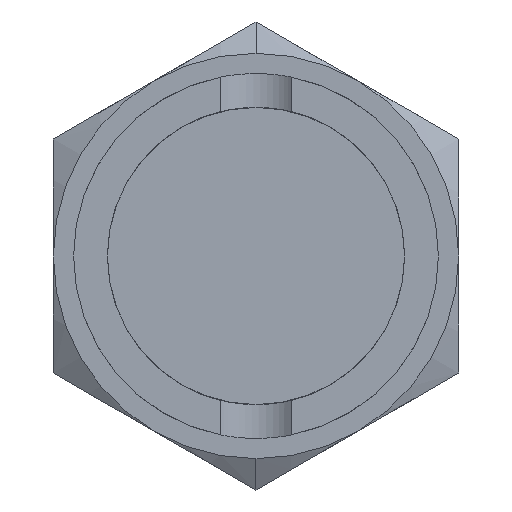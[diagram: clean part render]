
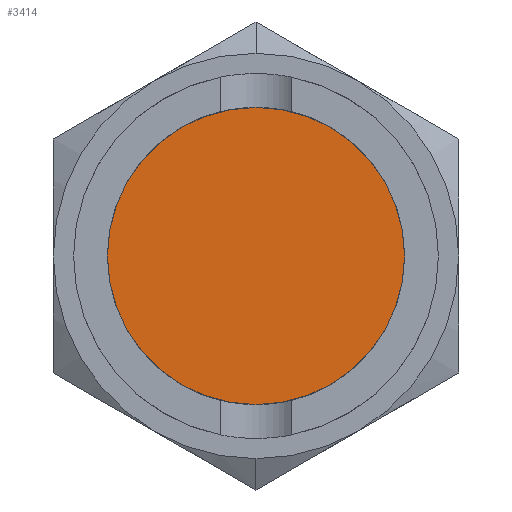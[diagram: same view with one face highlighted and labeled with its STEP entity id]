
A CAD part, front view. The second image highlights one B-rep face of the part: STEP entity #3414.
In plain terms, the highlighted planar face has unit normal (0, -1, 0).
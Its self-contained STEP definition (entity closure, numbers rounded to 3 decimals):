
#2984=CARTESIAN_POINT('',(-11.0,0.,0.0));
#2985=VERTEX_POINT('',#2984);
#2994=CARTESIAN_POINT('',(11.0,0.0,0.));
#2995=VERTEX_POINT('',#2994);
#2996=CARTESIAN_POINT('',(0.0,0.0,0.0));
#2997=DIRECTION('',(0.0,1.0,0.0));
#2998=DIRECTION('',(-1.0,0.0,0.0));
#2999=AXIS2_PLACEMENT_3D('',#2996,#2997,#2998);
#3000=CIRCLE('',#2999,11.0);
#3001=EDGE_CURVE('',#2985,#2995,#3000,.T.);
#3399=CARTESIAN_POINT('',(-5.5,0.,0.0));
#3400=DIRECTION('',(0.0,-1.0,0.0));
#3401=DIRECTION('',(0.0,0.0,-1.0));
#3402=AXIS2_PLACEMENT_3D('',#3399,#3400,#3401);
#3403=PLANE('',#3402);
#3404=ORIENTED_EDGE('',*,*,#3001,.F.);
#3405=CARTESIAN_POINT('',(0.0,0.0,0.0));
#3406=DIRECTION('',(0.0,1.0,0.0));
#3407=DIRECTION('',(-1.0,0.0,0.0));
#3408=AXIS2_PLACEMENT_3D('',#3405,#3406,#3407);
#3409=CIRCLE('',#3408,11.0);
#3410=EDGE_CURVE('',#2995,#2985,#3409,.T.);
#3411=ORIENTED_EDGE('',*,*,#3410,.F.);
#3412=EDGE_LOOP('',(#3404,#3411));
#3413=FACE_OUTER_BOUND('',#3412,.T.);
#3414=ADVANCED_FACE('',(#3413),#3403,.T.);
